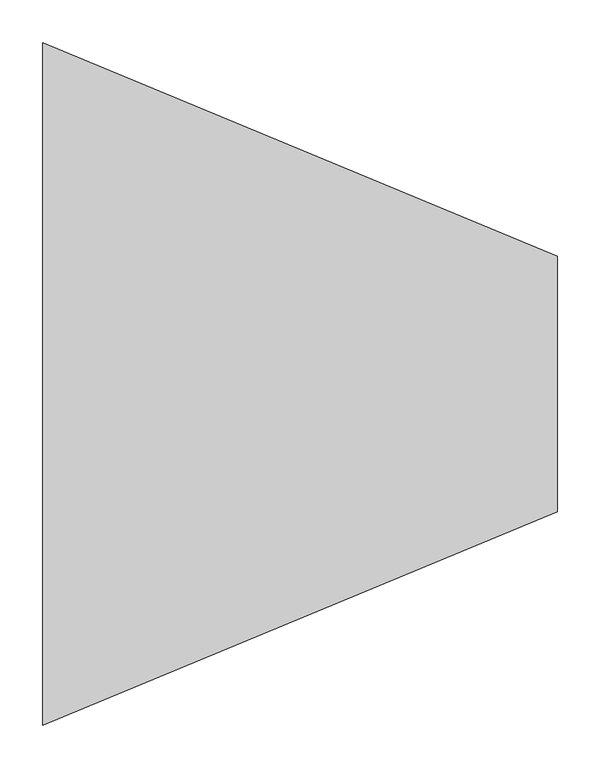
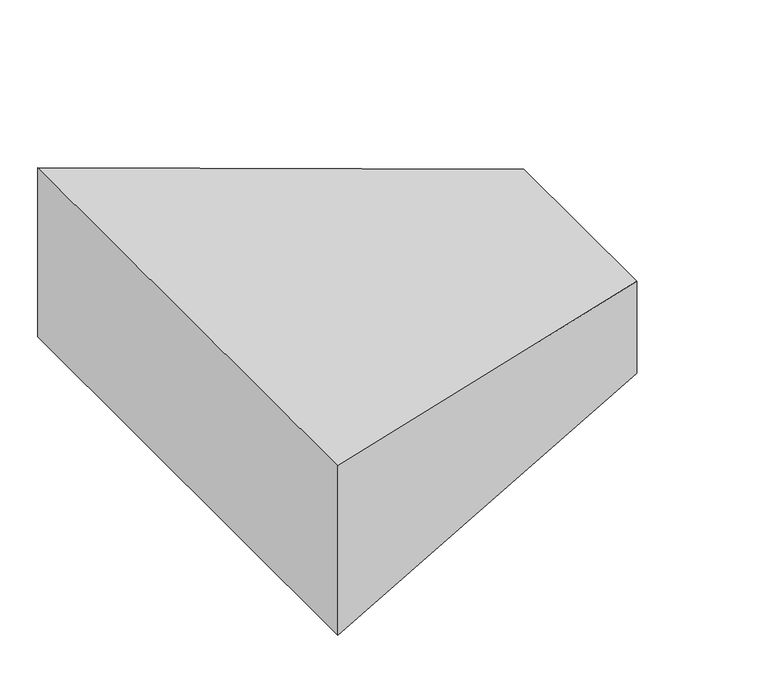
"""IFC4 building model written with IfcOpenShell, lengths in millimetres: duct fitting geometry, M_Transición rectangular - Ángulo : EXT_45 graus."""

from ifc_helpers import new_model, si_unit, origin, place, context, project, spatial, faceted_brep, source, transform, mapped, element, save


def duct_fitting_e8ecb067(model_context):
    return source(origin(), model_context, "Body", "Brep", [
        faceted_brep([(603.5533905, -150.0077456, 75.0), (603.5533905, -150.0077456, -75.0), (603.5533905, 149.9922544, -75.0), (603.5533905, 149.9922544, 75.0), (0.0, -400.0, 137.5), (0.0, 400.0, 137.5), (0.0, 400.0, -137.5), (0.0, -400.0, -137.5)], [[[0, 1, 2, 3]], [[4, 5, 6, 7]], [[4, 7, 1, 0]], [[7, 6, 2, 1]], [[6, 5, 3, 2]], [[5, 4, 0, 3]]]),
    ])


if __name__ == "__main__":
    model = new_model("IFC4")
    model_context = context("Model", 3, world=origin())
    ifc_project = project(units=[si_unit("LENGTHUNIT", "METRE", prefix="MILLI")], contexts=[model_context])
    site = spatial("IfcSite", under=ifc_project)
    building = spatial("IfcBuilding", under=site)
    placement = place(None, origin())
    duct_fitting_shape = duct_fitting_e8ecb067(model_context)
    element("IfcDuctFitting", 1, ObjectType="M_Transición rectangular - Ángulo : EXT_45 graus", at=placement, inside=building, context=model_context, shape_type="MappedRepresentation", body=[
        mapped(duct_fitting_shape, transform((0.0, 0.0, 0.0), x_axis=(1.0, 0.0, 0.0), y_axis=(0.0, 1.0, 0.0), z_axis=(0.0, 0.0, 1.0))),
    ])
    save(model, "model.ifc")
